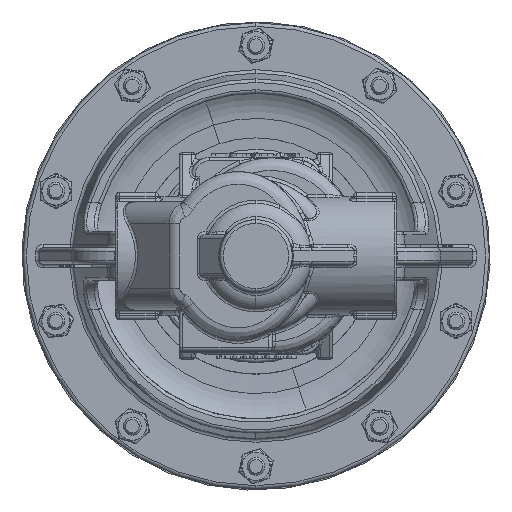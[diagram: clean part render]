
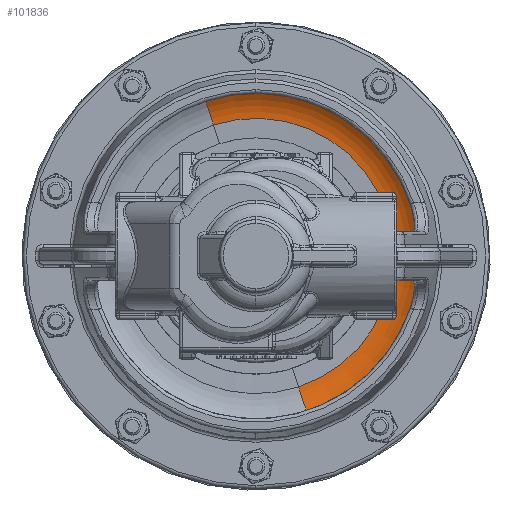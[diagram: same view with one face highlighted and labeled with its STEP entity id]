
A CAD part, front view. The second image highlights one B-rep face of the part: STEP entity #101836.
In plain terms, the highlighted toroidal (fillet/blend) face has major radius 48.306 mm and minor radius 15.478 mm.
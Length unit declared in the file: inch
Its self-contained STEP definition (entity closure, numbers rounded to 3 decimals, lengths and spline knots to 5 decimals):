
#2199 = VERTEX_POINT ( 'NONE', #69508 ) ;
#2201 = VERTEX_POINT ( 'NONE', #69510 ) ;
#2208 = VERTEX_POINT ( 'NONE', #69515 ) ;
#2212 = VERTEX_POINT ( 'NONE', #69518 ) ;
#16534 = EDGE_CURVE ( 'NONE', #2199, #2201, #45631, .T. ) ;
#16535 = EDGE_CURVE ( 'NONE', #2212, #2208, #45634, .T. ) ;
#17429 = ORIENTED_EDGE ( 'NONE', *, *, #16534, .F. ) ;
#17430 = ORIENTED_EDGE ( 'NONE', *, *, #18041, .F. ) ;
#17431 = ORIENTED_EDGE ( 'NONE', *, *, #16535, .T. ) ;
#17432 = ORIENTED_EDGE ( 'NONE', *, *, #18042, .T. ) ;
#18041 = EDGE_CURVE ( 'NONE', #2212, #2199, #45757, .T. ) ;
#18042 = EDGE_CURVE ( 'NONE', #2208, #2201, #45722, .T. ) ;
#45101 = CARTESIAN_POINT ( 'NONE',  ( 0., -0.78243, -1.9018 ) ) ;
#45102 = DIRECTION ( 'NONE',  ( 1., 0., 0. ) ) ;
#45103 = DIRECTION ( 'NONE',  ( 0., 0., -1. ) ) ;
#45105 = CARTESIAN_POINT ( 'NONE',  ( 0., -0.78243, 1.9018 ) ) ;
#45106 = DIRECTION ( 'NONE',  ( -1., 0., 0. ) ) ;
#45107 = DIRECTION ( 'NONE',  ( 0., 0., 1. ) ) ;
#45631 = CIRCLE ( 'NONE', #70560, 0.60938 ) ;
#45634 = CIRCLE ( 'NONE', #70561, 0.60938 ) ;
#45722 = CIRCLE ( 'NONE', #70666, 1.9226 ) ;
#45757 = CIRCLE ( 'NONE', #70665, 2.33212 ) ;
#47453 = EDGE_LOOP ( 'NONE', ( #17429, #17430, #17431, #17432 ) ) ;
#54023 = CARTESIAN_POINT ( 'NONE',  ( 0., -0.35098, 0. ) ) ;
#54025 = DIRECTION ( 'NONE',  ( 0., 1., 0. ) ) ;
#54027 = DIRECTION ( 'NONE',  ( 0., 0., 1. ) ) ;
#54031 = CARTESIAN_POINT ( 'NONE',  ( 0., -0.17342, 0. ) ) ;
#54033 = DIRECTION ( 'NONE',  ( 0., 1., 0. ) ) ;
#54035 = DIRECTION ( 'NONE',  ( 0., 0., 1. ) ) ;
#69508 = CARTESIAN_POINT ( 'NONE',  ( 0., -0.35098, -2.33212 ) ) ;
#69510 = CARTESIAN_POINT ( 'NONE',  ( 0., -0.17342, -1.9226 ) ) ;
#69515 = CARTESIAN_POINT ( 'NONE',  ( 0., -0.17342, 1.9226 ) ) ;
#69518 = CARTESIAN_POINT ( 'NONE',  ( 0., -0.35098, 2.33212 ) ) ;
#70560 = AXIS2_PLACEMENT_3D ( 'NONE', #45101, #45102, #45103 ) ;
#70561 = AXIS2_PLACEMENT_3D ( 'NONE', #45105, #45106, #45107 ) ;
#70665 = AXIS2_PLACEMENT_3D ( 'NONE', #54023, #54025, #54027 ) ;
#70666 = AXIS2_PLACEMENT_3D ( 'NONE', #54031, #54033, #54035 ) ;
#78265 = AXIS2_PLACEMENT_3D ( 'NONE', #97872, #97870, #97875 ) ;
#97870 = DIRECTION ( 'NONE',  ( 0., 1., 0. ) ) ;
#97872 = CARTESIAN_POINT ( 'NONE',  ( 0., -0.78243, 0. ) ) ;
#97875 = DIRECTION ( 'NONE',  ( 0., 0., 1. ) ) ;
#99518 = FACE_OUTER_BOUND ( 'NONE', #47453, .T. ) ;
#99521 = TOROIDAL_SURFACE ( 'NONE', #78265, 1.9018, 0.60938 ) ;
#101836 = ADVANCED_FACE ( 'NONE', ( #99518 ), #99521, .F. ) ;
